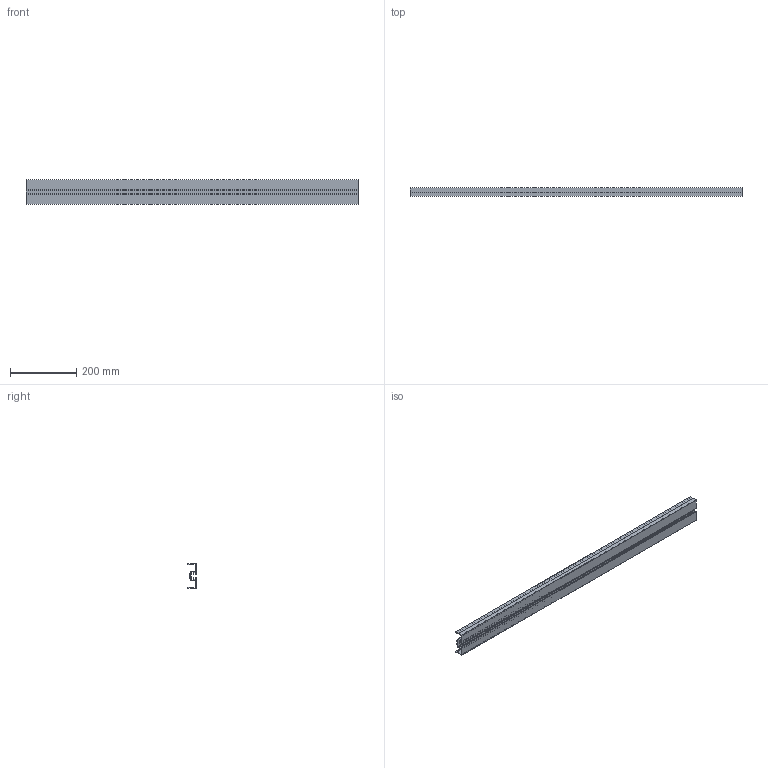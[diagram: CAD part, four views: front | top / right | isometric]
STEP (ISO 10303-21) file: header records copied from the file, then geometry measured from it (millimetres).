
FILE_DESCRIPTION(/* description */ ('BEAM'),/* implementation_level */ '2;1');
FILE_NAME(/* name */ 'T:\vdz0\Step Daten Website\modulflex FH-System\Führungsprofil\FHCB L -1000.stp',/* time_stamp */ '2024-09-05T09:27:17+02:00',/* author */ ('lzb0'),/* organization */ ('maG'),/* preprocessor_version */ 'ST-DEVELOPER v18.1',/* originating_system */ 'Autodesk Inventor 2021',/* authorisation */ '');
FILE_SCHEMA (('AUTOMOTIVE_DESIGN { 1 0 10303 214 3 1 1 }'));
Length unit declared in the file: millimetre
Products named in the file (1): FHCB L H-32
Bounding box: 1000 x 26.1 x 75 mm (x, y, z)
Volume: 414131 mm3; surface area: 385165.2 mm2
Topology: 1 solids, 1 shells, 96 faces, 282 edges, 188 vertices
Faces by surface type: plane 65, cylinder 31
Entity records: 3229 total; most frequent: CARTESIAN_POINT 567, ORIENTED_EDGE 564, DIRECTION 538, EDGE_CURVE 282, LINE 220, VECTOR 220, VERTEX_POINT 188, AXIS2_PLACEMENT_3D 159
